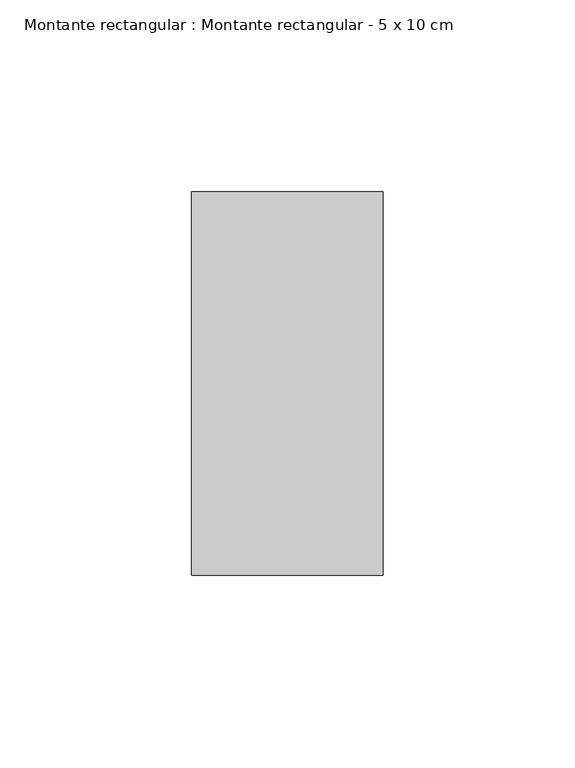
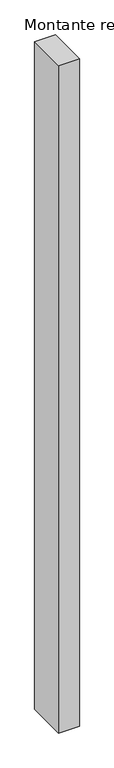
"""IFC4 building model written with IfcOpenShell, lengths in millimetres: member geometry, Montante rectangular : Montante rectangular - 5 x 10 cm."""

import ifcopenshell
import ifcopenshell.guid

model = None  # the IFC model being written
_history = None  # IfcOwnerHistory: only IFC2X3 demands one
_inside = {}  # id of a spatial element -> (the spatial element, [elements in it])
_under = {}  # id of a project, library or spatial element -> (it, [spatial elements below it])
_declared = {}  # id of a project -> (the project, [libraries it declares])
_typed = {}  # id of a type object -> (the type object, [elements of that type])
_made_of = {}  # id of a material, layer set ... -> (it, [elements and type objects made of it])


def new_model(schema):
    """Start an empty IFC model of exactly this schema.

    Asked for "IFC4X3", IfcOpenShell would pick the latest addendum, in which some entities
    have other attributes; the version numbers below select the first issue.
    IFC2X3 requires an IfcOwnerHistory on every rooted entity: one is made here for all.
    """
    global model, _history
    if schema == "IFC4X3":
        model = ifcopenshell.file(schema_version=(4, 3, 0, 0))
    else:
        model = ifcopenshell.file(schema=schema)
    _inside.clear()
    _under.clear()
    _declared.clear()
    _typed.clear()
    _made_of.clear()
    _history = None
    if model.schema == "IFC2X3":
        org = make("IfcOrganization", Name="unknown")
        user = make(
            "IfcPersonAndOrganization",
            ThePerson=make("IfcPerson", FamilyName="unknown"),
            TheOrganization=org,
        )
        app = make(
            "IfcApplication",
            ApplicationDeveloper=org,
            Version="unknown",
            ApplicationFullName="unknown",
            ApplicationIdentifier="unknown",
        )
        _history = make(
            "IfcOwnerHistory",
            OwningUser=user,
            OwningApplication=app,
            ChangeAction="ADDED",
            CreationDate=0,
        )
    return model


def make(cls, **values):
    """One entity of the class cls with the attributes given. An attribute that is None is left unset."""
    return model.create_entity(
        cls, **{name: value for name, value in values.items() if value is not None}
    )


def rooted(cls, **values):
    """An entity with a GlobalId (a new one), such as an element, a storey or a relation."""
    return make(cls, GlobalId=ifcopenshell.guid.new(), OwnerHistory=_history, **values)


def si_unit(unit_type, name, prefix=None):
    """IfcSIUnit, for example si_unit("LENGTHUNIT", "METRE", prefix="MILLI")."""
    return make("IfcSIUnit", UnitType=unit_type, Prefix=prefix, Name=name)


def assignment(units):
    """IfcUnitAssignment: the units of a project."""
    return None if units is None else make("IfcUnitAssignment", Units=units)


def point(xyz):
    """IfcCartesianPoint."""
    return None if xyz is None else make("IfcCartesianPoint", Coordinates=xyz)


def direction(xyz):
    """IfcDirection."""
    return None if xyz is None else make("IfcDirection", DirectionRatios=xyz)


def frame(location, z_axis=None, x_axis=None):
    """IfcAxis2Placement3D, a coordinate frame: its origin and axes. An axis left out is left unset."""
    return make(
        "IfcAxis2Placement3D",
        Location=point(location),
        Axis=direction(z_axis),
        RefDirection=direction(x_axis),
    )


def origin():
    """The frame at (0, 0, 0) with its axes left unset."""
    return frame((0.0, 0.0, 0.0))


def place(relative_to, where):
    """IfcLocalPlacement: puts the frame where relative to a parent placement (None: the world)."""
    return make(
        "IfcLocalPlacement", PlacementRelTo=relative_to, RelativePlacement=where
    )


def context(
    kind, dimensions, precision=None, world=None, true_north=None, identifier=None
):
    """IfcGeometricRepresentationContext, for example the 3D "Model" context."""
    return make(
        "IfcGeometricRepresentationContext",
        ContextIdentifier=identifier,
        ContextType=kind,
        CoordinateSpaceDimension=dimensions,
        Precision=precision,
        WorldCoordinateSystem=world,
        TrueNorth=true_north,
    )


def project(units=None, contexts=None):
    """IfcProject with its units and contexts."""
    return rooted(
        "IfcProject",
        Name="project",
        RepresentationContexts=contexts,
        UnitsInContext=assignment(units),
    )


def spatial(cls, under=None, at=None, **own):
    """A site, building, storey or space (cls), placed at a placement, below another one or the project."""
    s = rooted(cls, ObjectPlacement=at, **own)
    if under is not None:
        _under.setdefault(under.id(), (under, []))[1].append(s)
    return s


def polyline(points):
    """IfcPolyline through the points."""
    return make("IfcPolyline", Points=[point(p) for p in points])


def outline(outer, holes=None, kind="AREA"):
    """IfcArbitraryClosedProfileDef: a profile drawn as a closed curve; with holes, ...WithVoids."""
    if holes is None:
        return make("IfcArbitraryClosedProfileDef", ProfileType=kind, OuterCurve=outer)
    return make(
        "IfcArbitraryProfileDefWithVoids",
        ProfileType=kind,
        OuterCurve=outer,
        InnerCurves=holes,
    )


def extrude(swept, where, along, depth):
    """IfcExtrudedAreaSolid: the profile swept, set in the frame where, extruded along a direction by depth."""
    return make(
        "IfcExtrudedAreaSolid",
        SweptArea=swept,
        Position=where,
        ExtrudedDirection=direction(along),
        Depth=depth,
    )


def shape(context_of_items, identifier, shape_type, items):
    """IfcShapeRepresentation: the items that make up one representation, for example the "Body"."""
    return make(
        "IfcShapeRepresentation",
        ContextOfItems=context_of_items,
        RepresentationIdentifier=identifier,
        RepresentationType=shape_type,
        Items=items,
    )


def source(mapping_origin, context_of_items, identifier, shape_type, items):
    """IfcRepresentationMap: a shape defined once, which mapped items show again and again."""
    return make(
        "IfcRepresentationMap",
        MappingOrigin=mapping_origin,
        MappedRepresentation=shape(context_of_items, identifier, shape_type, items),
    )


def transform(
    local_origin,
    x_axis=None,
    y_axis=None,
    z_axis=None,
    scale=None,
    scale2=None,
    scale3=None,
    uniform=True,
):
    """IfcCartesianTransformationOperator3D, or its non-uniform kind. x_axis, y_axis, z_axis: its Axis1, 2, 3."""
    if uniform:
        return make(
            "IfcCartesianTransformationOperator3D",
            Axis1=direction(x_axis),
            Axis2=direction(y_axis),
            LocalOrigin=point(local_origin),
            Scale=scale,
            Axis3=direction(z_axis),
        )
    return make(
        "IfcCartesianTransformationOperator3DnonUniform",
        Axis1=direction(x_axis),
        Axis2=direction(y_axis),
        LocalOrigin=point(local_origin),
        Scale=scale,
        Axis3=direction(z_axis),
        Scale2=scale2,
        Scale3=scale3,
    )


def mapped(mapping_source, mapping_target):
    """IfcMappedItem: shows the shape of a source again, moved by a transform."""
    return make(
        "IfcMappedItem", MappingSource=mapping_source, MappingTarget=mapping_target
    )


def made_of(thing, what):
    """Note that an element or type object is made of a material, layer set ...; save() writes the relation."""
    if what is not None:
        _made_of.setdefault(what.id(), (what, []))[1].append(thing)
    return thing


def element(
    cls,
    number,
    at=None,
    inside=None,
    cuts=None,
    type_object=None,
    material=None,
    context=None,
    identifier="Body",
    shape_type=None,
    held_by="IfcProductDefinitionShape",
    body=None,
    shapes=None,
    **own,
):
    """One element of the class cls, such as IfcWall. Its Tag is "e" and its number.

    at: its placement. inside: the storey or other place that contains it. cuts: it is an
    opening in that element (IfcRelVoidsElement). A single representation is given by context,
    identifier, shape_type and body (its items); several are given by shapes. held_by: the class
    of the entity that holds the representations. save() writes the other relations.
    """
    e = rooted(cls, Tag="e%d" % number, ObjectPlacement=at, **own)
    if body is not None:
        shapes = [shape(context, identifier, shape_type, body)]
    if shapes is not None:
        e.Representation = make(held_by, Representations=shapes)
    if inside is not None:
        _inside.setdefault(inside.id(), (inside, []))[1].append(e)
    if cuts is not None:
        rooted(
            "IfcRelVoidsElement", RelatingBuildingElement=cuts, RelatedOpeningElement=e
        )
    if type_object is not None:
        _typed.setdefault(type_object.id(), (type_object, []))[1].append(e)
    return made_of(e, material)


def aggregate(whole, parts):
    """IfcRelAggregates: a whole, such as a stair, and the parts it consists of."""
    return rooted("IfcRelAggregates", RelatingObject=whole, RelatedObjects=parts)


def save(model, path):
    """Write the relations noted so far, then the file.

    IfcRelAggregates (storeys below a building ...), IfcRelContainedInSpatialStructure (elements
    in a storey), IfcRelDefinesByType, IfcRelAssociatesMaterial and IfcRelDeclares: one each for
    every whole, place, type object, material and project.
    """
    for whole, parts in _under.values():
        aggregate(whole, parts)
    for where, things in _inside.values():
        rooted(
            "IfcRelContainedInSpatialStructure",
            RelatedElements=things,
            RelatingStructure=where,
        )
    for kind, things in _typed.values():
        rooted("IfcRelDefinesByType", RelatedObjects=things, RelatingType=kind)
    for what, things in _made_of.values():
        rooted("IfcRelAssociatesMaterial", RelatedObjects=things, RelatingMaterial=what)
    for by, libraries in _declared.values():
        rooted("IfcRelDeclares", RelatingContext=by, RelatedDefinitions=libraries)
    model.write(path)


def montante_rectangular_montante_rectangular_5_x_10_cm_232fccff(model_context):
    return source(origin(), model_context, "Body", "SweptSolid", [
        extrude(outline(polyline([(-50.0, 50.0), (0.0, 50.0), (0.0, -50.0), (-50.0, -50.0), (-50.0, 50.0)])), frame((0.0, 0.0, -1705.0), z_axis=(0.0, 0.0, 1.0), x_axis=(1.0, 0.0, 0.0)), (0.0, 0.0, 1.0), 1705.0),
    ])


if __name__ == "__main__":
    model = new_model("IFC4")
    model_context = context("Model", 3, world=origin())
    ifc_project = project(units=[si_unit("LENGTHUNIT", "METRE", prefix="MILLI")], contexts=[model_context])
    site = spatial("IfcSite", under=ifc_project)
    building = spatial("IfcBuilding", under=site)
    placement = place(None, origin())
    montante_rectangular_montante_rectangular_5_x_10_cm_shape = montante_rectangular_montante_rectangular_5_x_10_cm_232fccff(model_context)
    element("IfcMember", 1, ObjectType="Montante rectangular : Montante rectangular - 5 x 10 cm", at=placement, inside=building, context=model_context, shape_type="MappedRepresentation", body=[
        mapped(montante_rectangular_montante_rectangular_5_x_10_cm_shape, transform((0.0, 0.0, 0.0), x_axis=(1.0, 0.0, 0.0), y_axis=(0.0, 1.0, 0.0), z_axis=(0.0, 0.0, 1.0))),
    ])
    save(model, "model.ifc")
